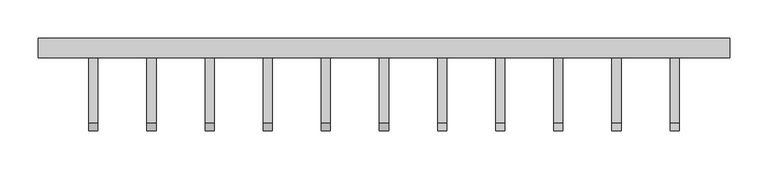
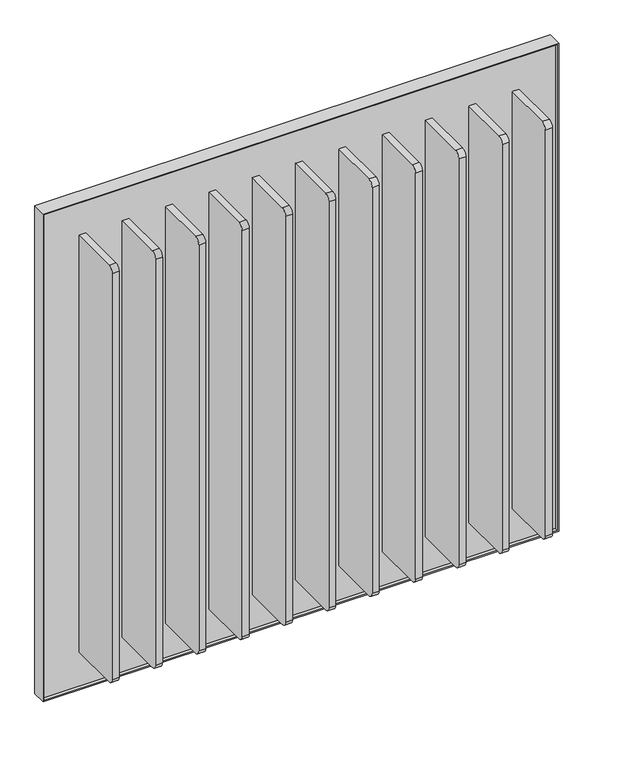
"""IFC4 building model written with IfcOpenShell, lengths in millimetres: proxy geometry, Frame_Cascade 5.3dm."""

from ifc_helpers import new_model, si_unit, point, frame, frame_2d, origin, place, context, project, spatial, polyline, circle_curve, trimmed, segment, composite_curve, outline, extrude, source, transform, mapped, element, save


def generic_models_3b1ef418(model_context):
    return source(origin(), model_context, "Body", "SweptSolid", [
        extrude(outline(polyline([(5651.130479, 114.2568681), (4751.130479, 114.2568681), (4751.130479, 126.2568681), (5651.130479, 126.2568681), (5651.130479, 114.2568681)])), frame((0.0, 0.0, 3028.5198113), z_axis=(0.0, 0.0, 1.0), x_axis=(1.0, 0.0, 0.0)), (0.0, 0.0, 1.0), 900.0),
        extrude(outline(polyline([(3026.5198113, 5653.130479), (3930.5198113, 5653.130479), (3930.5198113, 4749.130479), (3026.5198113, 4749.130479), (3026.5198113, 5653.130479)]), holes=[polyline([(3028.5198113, 5651.130479), (3028.5198113, 4751.130479), (3928.5198113, 4751.130479), (3928.5198113, 5651.130479), (3028.5198113, 5651.130479)])]), frame((0.0, 107.5568681, 0.0), z_axis=(0.0, 1.0, 0.0), x_axis=(0.0, 0.0, 1.0)), (0.0, 0.0, 1.0), 25.4),
        extrude(outline(composite_curve([segment(trimmed(circle_curve(frame_2d((22.2568681, 3102.5198113)), 10.0), [point((22.2568681, 3092.5198113))], [point((12.2568681, 3102.5198113))], False, "CARTESIAN"), True, "CONTINUOUS"), segment(polyline([(12.2568681, 3102.5198113), (12.2568681, 3854.5198113)]), True, "CONTINUOUS"), segment(trimmed(circle_curve(frame_2d((22.2568681, 3854.5198113)), 10.0), [point((12.2568681, 3854.5198113))], [point((22.2568681, 3864.5198113))], False, "CARTESIAN"), True, "CONTINUOUS"), segment(polyline([(22.2568681, 3864.5198113), (114.2568681, 3864.5198113), (114.2568681, 3092.5198113), (22.2568681, 3092.5198113)]), True, "CONTINUOUS")], self_intersect=False)), frame((5195.130479, 0.0, 0.0), z_axis=(1.0, 0.0, 0.0), x_axis=(0.0, 1.0, 0.0)), (0.0, 0.0, 1.0), 12.0),
        extrude(outline(composite_curve([segment(trimmed(circle_curve(frame_2d((22.2568681, 3102.5198113)), 10.0), [point((22.2568681, 3092.5198113))], [point((12.2568681, 3102.5198113))], False, "CARTESIAN"), True, "CONTINUOUS"), segment(polyline([(12.2568681, 3102.5198113), (12.2568681, 3854.5198113)]), True, "CONTINUOUS"), segment(trimmed(circle_curve(frame_2d((22.2568681, 3854.5198113)), 10.0), [point((12.2568681, 3854.5198113))], [point((22.2568681, 3864.5198113))], False, "CARTESIAN"), True, "CONTINUOUS"), segment(polyline([(22.2568681, 3864.5198113), (114.2568681, 3864.5198113), (114.2568681, 3092.5198113), (22.2568681, 3092.5198113)]), True, "CONTINUOUS")], self_intersect=False)), frame((5119.130479, 0.0, 0.0), z_axis=(1.0, 0.0, 0.0), x_axis=(0.0, 1.0, 0.0)), (0.0, 0.0, 1.0), 12.0),
        extrude(outline(composite_curve([segment(trimmed(circle_curve(frame_2d((22.2568681, 3102.5198113)), 10.0), [point((22.2568681, 3092.5198113))], [point((12.2568681, 3102.5198113))], False, "CARTESIAN"), True, "CONTINUOUS"), segment(polyline([(12.2568681, 3102.5198113), (12.2568681, 3854.5198113)]), True, "CONTINUOUS"), segment(trimmed(circle_curve(frame_2d((22.2568681, 3854.5198113)), 10.0), [point((12.2568681, 3854.5198113))], [point((22.2568681, 3864.5198113))], False, "CARTESIAN"), True, "CONTINUOUS"), segment(polyline([(22.2568681, 3864.5198113), (114.2568681, 3864.5198113), (114.2568681, 3092.5198113), (22.2568681, 3092.5198113)]), True, "CONTINUOUS")], self_intersect=False)), frame((4815.130479, 0.0, 0.0), z_axis=(1.0, 0.0, 0.0), x_axis=(0.0, 1.0, 0.0)), (0.0, 0.0, 1.0), 12.0),
        extrude(outline(composite_curve([segment(trimmed(circle_curve(frame_2d((22.2568681, 3102.5198113)), 10.0), [point((22.2568681, 3092.5198113))], [point((12.2568681, 3102.5198113))], False, "CARTESIAN"), True, "CONTINUOUS"), segment(polyline([(12.2568681, 3102.5198113), (12.2568681, 3854.5198113)]), True, "CONTINUOUS"), segment(trimmed(circle_curve(frame_2d((22.2568681, 3854.5198113)), 10.0), [point((12.2568681, 3854.5198113))], [point((22.2568681, 3864.5198113))], False, "CARTESIAN"), True, "CONTINUOUS"), segment(polyline([(22.2568681, 3864.5198113), (114.2568681, 3864.5198113), (114.2568681, 3092.5198113), (22.2568681, 3092.5198113)]), True, "CONTINUOUS")], self_intersect=False)), frame((4891.130479, 0.0, 0.0), z_axis=(1.0, 0.0, 0.0), x_axis=(0.0, 1.0, 0.0)), (0.0, 0.0, 1.0), 12.0),
        extrude(outline(composite_curve([segment(trimmed(circle_curve(frame_2d((22.2568681, 3102.5198113)), 10.0), [point((22.2568681, 3092.5198113))], [point((12.2568681, 3102.5198113))], False, "CARTESIAN"), True, "CONTINUOUS"), segment(polyline([(12.2568681, 3102.5198113), (12.2568681, 3854.5198113)]), True, "CONTINUOUS"), segment(trimmed(circle_curve(frame_2d((22.2568681, 3854.5198113)), 10.0), [point((12.2568681, 3854.5198113))], [point((22.2568681, 3864.5198113))], False, "CARTESIAN"), True, "CONTINUOUS"), segment(polyline([(22.2568681, 3864.5198113), (114.2568681, 3864.5198113), (114.2568681, 3092.5198113), (22.2568681, 3092.5198113)]), True, "CONTINUOUS")], self_intersect=False)), frame((4967.130479, 0.0, 0.0), z_axis=(1.0, 0.0, 0.0), x_axis=(0.0, 1.0, 0.0)), (0.0, 0.0, 1.0), 12.0),
        extrude(outline(composite_curve([segment(polyline([(22.2568681, 3864.5198113), (114.2568681, 3864.5198113), (114.2568681, 3092.5198113), (22.2568681, 3092.5198113)]), True, "CONTINUOUS"), segment(trimmed(circle_curve(frame_2d((22.2568681, 3102.5198113)), 10.0), [point((22.2568681, 3092.5198113))], [point((12.2568681, 3102.5198113))], False, "CARTESIAN"), True, "CONTINUOUS"), segment(polyline([(12.2568681, 3102.5198113), (12.2568681, 3854.5198113)]), True, "CONTINUOUS"), segment(trimmed(circle_curve(frame_2d((22.2568681, 3854.5198113)), 10.0), [point((12.2568681, 3854.5198113))], [point((22.2568681, 3864.5198113))], False, "CARTESIAN"), True, "CONTINUOUS")], self_intersect=False)), frame((5499.130479, 0.0, 0.0), z_axis=(1.0, 0.0, 0.0), x_axis=(0.0, 1.0, 0.0)), (0.0, 0.0, 1.0), 12.0),
        extrude(outline(composite_curve([segment(trimmed(circle_curve(frame_2d((22.2568681, 3102.5198113)), 10.0), [point((22.2568681, 3092.5198113))], [point((12.2568681, 3102.5198113))], False, "CARTESIAN"), True, "CONTINUOUS"), segment(polyline([(12.2568681, 3102.5198113), (12.2568681, 3854.5198113)]), True, "CONTINUOUS"), segment(trimmed(circle_curve(frame_2d((22.2568681, 3854.5198113)), 10.0), [point((12.2568681, 3854.5198113))], [point((22.2568681, 3864.5198113))], False, "CARTESIAN"), True, "CONTINUOUS"), segment(polyline([(22.2568681, 3864.5198113), (114.2568681, 3864.5198113), (114.2568681, 3092.5198113), (22.2568681, 3092.5198113)]), True, "CONTINUOUS")], self_intersect=False)), frame((5043.130479, 0.0, 0.0), z_axis=(1.0, 0.0, 0.0), x_axis=(0.0, 1.0, 0.0)), (0.0, 0.0, 1.0), 12.0),
        extrude(outline(composite_curve([segment(polyline([(22.2568681, 3864.5198113), (114.2568681, 3864.5198113), (114.2568681, 3092.5198113), (22.2568681, 3092.5198113)]), True, "CONTINUOUS"), segment(trimmed(circle_curve(frame_2d((22.2568681, 3102.5198113)), 10.0), [point((22.2568681, 3092.5198113))], [point((12.2568681, 3102.5198113))], False, "CARTESIAN"), True, "CONTINUOUS"), segment(polyline([(12.2568681, 3102.5198113), (12.2568681, 3854.5198113)]), True, "CONTINUOUS"), segment(trimmed(circle_curve(frame_2d((22.2568681, 3854.5198113)), 10.0), [point((12.2568681, 3854.5198113))], [point((22.2568681, 3864.5198113))], False, "CARTESIAN"), True, "CONTINUOUS")], self_intersect=False)), frame((5423.130479, 0.0, 0.0), z_axis=(1.0, 0.0, 0.0), x_axis=(0.0, 1.0, 0.0)), (0.0, 0.0, 1.0), 12.0),
        extrude(outline(composite_curve([segment(polyline([(22.2568681, 3864.5198113), (114.2568681, 3864.5198113), (114.2568681, 3092.5198113), (22.2568681, 3092.5198113)]), True, "CONTINUOUS"), segment(trimmed(circle_curve(frame_2d((22.2568681, 3102.5198113)), 10.0), [point((22.2568681, 3092.5198113))], [point((12.2568681, 3102.5198113))], False, "CARTESIAN"), True, "CONTINUOUS"), segment(polyline([(12.2568681, 3102.5198113), (12.2568681, 3854.5198113)]), True, "CONTINUOUS"), segment(trimmed(circle_curve(frame_2d((22.2568681, 3854.5198113)), 10.0), [point((12.2568681, 3854.5198113))], [point((22.2568681, 3864.5198113))], False, "CARTESIAN"), True, "CONTINUOUS")], self_intersect=False)), frame((5271.130479, 0.0, 0.0), z_axis=(1.0, 0.0, 0.0), x_axis=(0.0, 1.0, 0.0)), (0.0, 0.0, 1.0), 12.0),
        extrude(outline(composite_curve([segment(polyline([(22.2568681, 3864.5198113), (114.2568681, 3864.5198113), (114.2568681, 3092.5198113), (22.2568681, 3092.5198113)]), True, "CONTINUOUS"), segment(trimmed(circle_curve(frame_2d((22.2568681, 3102.5198113)), 10.0), [point((22.2568681, 3092.5198113))], [point((12.2568681, 3102.5198113))], False, "CARTESIAN"), True, "CONTINUOUS"), segment(polyline([(12.2568681, 3102.5198113), (12.2568681, 3854.5198113)]), True, "CONTINUOUS"), segment(trimmed(circle_curve(frame_2d((22.2568681, 3854.5198113)), 10.0), [point((12.2568681, 3854.5198113))], [point((22.2568681, 3864.5198113))], False, "CARTESIAN"), True, "CONTINUOUS")], self_intersect=False)), frame((5347.130479, 0.0, 0.0), z_axis=(1.0, 0.0, 0.0), x_axis=(0.0, 1.0, 0.0)), (0.0, 0.0, 1.0), 12.0),
        extrude(outline(composite_curve([segment(polyline([(22.2568681, 3864.5198113), (114.2568681, 3864.5198113), (114.2568681, 3092.5198113), (22.2568681, 3092.5198113)]), True, "CONTINUOUS"), segment(trimmed(circle_curve(frame_2d((22.2568681, 3102.5198113)), 10.0), [point((22.2568681, 3092.5198113))], [point((12.2568681, 3102.5198113))], False, "CARTESIAN"), True, "CONTINUOUS"), segment(polyline([(12.2568681, 3102.5198113), (12.2568681, 3854.5198113)]), True, "CONTINUOUS"), segment(trimmed(circle_curve(frame_2d((22.2568681, 3854.5198113)), 10.0), [point((12.2568681, 3854.5198113))], [point((22.2568681, 3864.5198113))], False, "CARTESIAN"), True, "CONTINUOUS")], self_intersect=False)), frame((5575.130479, 0.0, 0.0), z_axis=(1.0, 0.0, 0.0), x_axis=(0.0, 1.0, 0.0)), (0.0, 0.0, 1.0), 12.0),
    ])


if __name__ == "__main__":
    model = new_model("IFC4")
    model_context = context("Model", 3, world=origin())
    ifc_project = project(units=[si_unit("LENGTHUNIT", "METRE", prefix="MILLI")], contexts=[model_context])
    site = spatial("IfcSite", under=ifc_project)
    building = spatial("IfcBuilding", under=site)
    placement = place(None, origin())
    generic_models_shape = generic_models_3b1ef418(model_context)
    element("IfcBuildingElementProxy", 1, Name="Frame_Cascade 5.3dm", ObjectType="Frame_Cascade 5.3dm", at=placement, inside=building, context=model_context, shape_type="MappedRepresentation", body=[
        mapped(generic_models_shape, transform((0.0, 0.0, 0.0), x_axis=(1.0, 0.0, 0.0), y_axis=(0.0, 1.0, 0.0), z_axis=(0.0, 0.0, 1.0))),
    ])
    save(model, "model.ifc")
